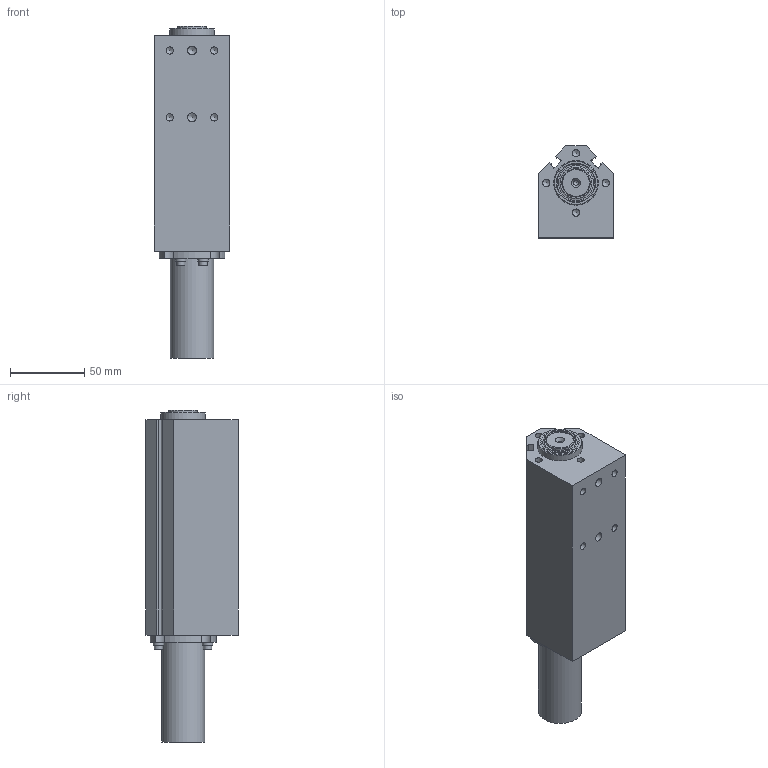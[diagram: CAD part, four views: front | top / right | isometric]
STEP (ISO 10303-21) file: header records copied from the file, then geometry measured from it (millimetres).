
FILE_DESCRIPTION(/* description */ (''),/* implementation_level */ '2;1');
FILE_NAME(/* name */ 'C:\Users\NNemeth\OneDrive - WELKER ENGINEERED PRODUCTS\BP1 Models\BP1XXXAXE00.stp',/* time_stamp */ '2022-07-11T16:57:43-04:00',/* author */ ('NNemeth'),/* organization */ (''),/* preprocessor_version */ 'ST-DEVELOPER v18',/* originating_system */ 'Autodesk Inventor 2020',/* authorisation */ '');
FILE_SCHEMA (('AUTOMOTIVE_DESIGN { 1 0 10303 214 3 1 1 }'));
Products named in the file (3): BP1_Assembly; BP1E02A; BP1 A Spring
Assembly tree (2 placements, depth 2):
  BP1_Assembly
    BP1E02A
    BP1 A Spring
Bounding box: 50.8 x 62 x 223.5 mm (x, y, z)
Volume: 383808 mm3; surface area: 77671.9 mm2
Topology: 2 solids, 10 shells, 208 faces, 506 edges, 342 vertices
Faces by surface type: plane 109, cylinder 62, cone 34, torus 3
Full cylindrical faces by diameter (mm): 2 x2, 2.459 x4, 3 x4, 3.175 x1, 3.4 x4, 3.5 x4, 4.917 x8, 5.5 x4, 6 x2, 7 x4, 8 x1, 15 x1, 19.05 x3, 22.225 x1, 23.4 x1, 23.672 x1, 25.4 x1, 27 x1, 28.677 x1, 29 x1, 29.21 x1, 30 x1, 31.75 x2, 31.826 x1
Entity records: 6558 total; most frequent: DIRECTION 1154, CARTESIAN_POINT 1121, ORIENTED_EDGE 982, EDGE_CURVE 491, AXIS2_PLACEMENT_3D 455, VERTEX_POINT 342, EDGE_LOOP 259, LINE 244
